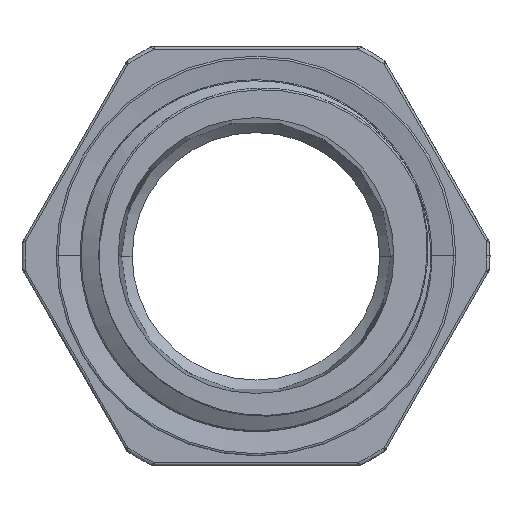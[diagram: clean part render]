
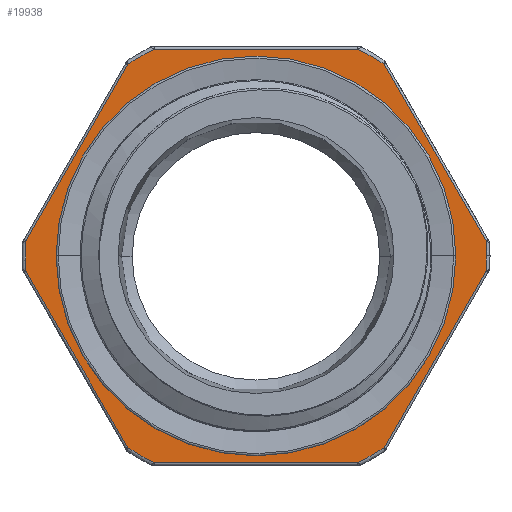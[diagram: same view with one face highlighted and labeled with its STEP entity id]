
A CAD part, top view. The second image highlights one B-rep face of the part: STEP entity #19938.
In plain terms, the highlighted planar face has unit normal (0, 0, 1).
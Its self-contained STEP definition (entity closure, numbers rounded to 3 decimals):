
#47 = CARTESIAN_POINT ( 'NONE',  ( 0., 0., 2.974 ) ) ;
#90 = EDGE_CURVE ( 'NONE', #15262, #11327, #21516, .T. ) ;
#416 = AXIS2_PLACEMENT_3D ( 'NONE', #47, #4481, #24267 ) ;
#557 = AXIS2_PLACEMENT_3D ( 'NONE', #11249, #18083, #22384 ) ;
#696 = ORIENTED_EDGE ( 'NONE', *, *, #16861, .T. ) ;
#1387 = ORIENTED_EDGE ( 'NONE', *, *, #20879, .T. ) ;
#1434 = AXIS2_PLACEMENT_3D ( 'NONE', #26914, #16335, #14083 ) ;
#1532 = ORIENTED_EDGE ( 'NONE', *, *, #6446, .T. ) ;
#1829 = CARTESIAN_POINT ( 'NONE',  ( -13.17, -0.887, 2.974 ) ) ;
#2305 = AXIS2_PLACEMENT_3D ( 'NONE', #7993, #5858, #16514 ) ;
#2536 = EDGE_CURVE ( 'NONE', #11327, #16603, #14813, .T. ) ;
#3759 = CARTESIAN_POINT ( 'NONE',  ( 0., 0., 2.974 ) ) ;
#3799 = VECTOR ( 'NONE', #22326, 1000. ) ;
#4267 = CARTESIAN_POINT ( 'NONE',  ( -6.803, -11.915, 2.974 ) ) ;
#4401 = VERTEX_POINT ( 'NONE', #13887 ) ;
#4406 = CARTESIAN_POINT ( 'NONE',  ( -5.826, 11.845, 2.974 ) ) ;
#4481 = DIRECTION ( 'NONE',  ( 0., 0., 1. ) ) ;
#4662 = CARTESIAN_POINT ( 'NONE',  ( -0.002, -0.002, 2.974 ) ) ;
#4933 = DIRECTION ( 'NONE',  ( 1., 0., 0. ) ) ;
#4973 = CARTESIAN_POINT ( 'NONE',  ( -13.17, 0.883, 2.974 ) ) ;
#5183 = DIRECTION ( 'NONE',  ( 1., 0., 0. ) ) ;
#5434 = DIRECTION ( 'NONE',  ( 0., 0., 1. ) ) ;
#5501 = AXIS2_PLACEMENT_3D ( 'NONE', #3759, #21146, #16405 ) ;
#5548 = ORIENTED_EDGE ( 'NONE', *, *, #90, .T. ) ;
#5723 = CARTESIAN_POINT ( 'NONE',  ( 7.342, 10.969, 2.974 ) ) ;
#5858 = DIRECTION ( 'NONE',  ( 0., 0., 1. ) ) ;
#5986 = CIRCLE ( 'NONE', #5501, 13.2 ) ;
#6229 = CARTESIAN_POINT ( 'NONE',  ( 6.915, -11.848, 2.974 ) ) ;
#6267 = DIRECTION ( 'NONE',  ( 0.5, -0.866, 0. ) ) ;
#6446 = EDGE_CURVE ( 'NONE', #20506, #13637, #11793, .T. ) ;
#6656 = PLANE ( 'NONE',  #17610 ) ;
#7065 = DIRECTION ( 'NONE',  ( 0., 0., 1. ) ) ;
#7277 = CARTESIAN_POINT ( 'NONE',  ( -7.35, 10.964, 2.974 ) ) ;
#7550 = CARTESIAN_POINT ( 'NONE',  ( 7.345, -10.967, 2.974 ) ) ;
#7993 = CARTESIAN_POINT ( 'NONE',  ( 0., 0., 2.974 ) ) ;
#8368 = ORIENTED_EDGE ( 'NONE', *, *, #8469, .T. ) ;
#8469 = EDGE_CURVE ( 'NONE', #16603, #10757, #17250, .T. ) ;
#8627 = CIRCLE ( 'NONE', #416, 13.2 ) ;
#8732 = EDGE_CURVE ( 'NONE', #20910, #18375, #8627, .T. ) ;
#8779 = DIRECTION ( 'NONE',  ( 1., 0., 0. ) ) ;
#8838 = VECTOR ( 'NONE', #6267, 1000. ) ;
#8905 = DIRECTION ( 'NONE',  ( -0.5, -0.866, 0. ) ) ;
#8952 = ORIENTED_EDGE ( 'NONE', *, *, #17942, .F. ) ;
#9282 = ORIENTED_EDGE ( 'NONE', *, *, #13259, .T. ) ;
#10620 = CARTESIAN_POINT ( 'NONE',  ( 0., 0., 2.974 ) ) ;
#10757 = VERTEX_POINT ( 'NONE', #7277 ) ;
#10903 = LINE ( 'NONE', #11040, #12937 ) ;
#10923 = VERTEX_POINT ( 'NONE', #12045 ) ;
#11040 = CARTESIAN_POINT ( 'NONE',  ( -13.72, -0.069, 2.974 ) ) ;
#11249 = CARTESIAN_POINT ( 'NONE',  ( 0., 0., 2.974 ) ) ;
#11327 = VERTEX_POINT ( 'NONE', #20573 ) ;
#11694 = DIRECTION ( 'NONE',  ( 1., 0., 0. ) ) ;
#11793 = CIRCLE ( 'NONE', #25910, 13.2 ) ;
#11977 = VERTEX_POINT ( 'NONE', #7550 ) ;
#12045 = CARTESIAN_POINT ( 'NONE',  ( 11.444, -0.002, 2.974 ) ) ;
#12599 = EDGE_CURVE ( 'NONE', #10757, #20910, #10903, .T. ) ;
#12937 = VECTOR ( 'NONE', #8905, 1000. ) ;
#12978 = CARTESIAN_POINT ( 'NONE',  ( 0., 0., 2.974 ) ) ;
#13124 = DIRECTION ( 'NONE',  ( -1., 0., 0. ) ) ;
#13259 = EDGE_CURVE ( 'NONE', #18375, #20506, #23780, .T. ) ;
#13449 = CARTESIAN_POINT ( 'NONE',  ( -0.002, -0.002, 2.974 ) ) ;
#13637 = VERTEX_POINT ( 'NONE', #18754 ) ;
#13887 = CARTESIAN_POINT ( 'NONE',  ( 13.171, 0.874, 2.974 ) ) ;
#14083 = DIRECTION ( 'NONE',  ( 1., 0., 0. ) ) ;
#14813 = LINE ( 'NONE', #21808, #15178 ) ;
#15178 = VECTOR ( 'NONE', #13124, 1000. ) ;
#15185 = DIRECTION ( 'NONE',  ( -0.5, 0.866, 0. ) ) ;
#15262 = VERTEX_POINT ( 'NONE', #5723 ) ;
#15293 = ORIENTED_EDGE ( 'NONE', *, *, #2536, .T. ) ;
#15432 = ORIENTED_EDGE ( 'NONE', *, *, #23530, .F. ) ;
#15475 = ORIENTED_EDGE ( 'NONE', *, *, #22438, .T. ) ;
#16320 = VERTEX_POINT ( 'NONE', #25080 ) ;
#16335 = DIRECTION ( 'NONE',  ( 0., 0., 1. ) ) ;
#16405 = DIRECTION ( 'NONE',  ( 1., 0., 0. ) ) ;
#16514 = DIRECTION ( 'NONE',  ( 1., 0., 0. ) ) ;
#16603 = VERTEX_POINT ( 'NONE', #4406 ) ;
#16861 = EDGE_CURVE ( 'NONE', #13637, #16320, #27890, .T. ) ;
#17102 = VERTEX_POINT ( 'NONE', #23161 ) ;
#17250 = CIRCLE ( 'NONE', #28182, 13.2 ) ;
#17461 = FACE_OUTER_BOUND ( 'NONE', #27827, .T. ) ;
#17610 = AXIS2_PLACEMENT_3D ( 'NONE', #4662, #7065, #4933 ) ;
#17942 = EDGE_CURVE ( 'NONE', #10923, #22635, #28127, .T. ) ;
#18083 = DIRECTION ( 'NONE',  ( 0., 0., 1. ) ) ;
#18173 = CARTESIAN_POINT ( 'NONE',  ( 13.716, 0.066, 2.974 ) ) ;
#18375 = VERTEX_POINT ( 'NONE', #1829 ) ;
#18507 = VERTEX_POINT ( 'NONE', #21497 ) ;
#18754 = CARTESIAN_POINT ( 'NONE',  ( -5.82, -11.848, 2.974 ) ) ;
#19115 = CIRCLE ( 'NONE', #2305, 13.2 ) ;
#19260 = VECTOR ( 'NONE', #15185, 1000. ) ;
#19350 = LINE ( 'NONE', #23900, #19260 ) ;
#19384 = DIRECTION ( 'NONE',  ( 0., 0., 1. ) ) ;
#19848 = ORIENTED_EDGE ( 'NONE', *, *, #20756, .T. ) ;
#19899 = FACE_BOUND ( 'NONE', #22876, .T. ) ;
#19938 = ADVANCED_FACE ( 'NONE', ( #19899, #17461 ), #6656, .T. ) ;
#19971 = CARTESIAN_POINT ( 'NONE',  ( -7.353, -10.962, 2.974 ) ) ;
#20367 = ORIENTED_EDGE ( 'NONE', *, *, #25774, .T. ) ;
#20506 = VERTEX_POINT ( 'NONE', #19971 ) ;
#20573 = CARTESIAN_POINT ( 'NONE',  ( 5.826, 11.845, 2.974 ) ) ;
#20630 = ORIENTED_EDGE ( 'NONE', *, *, #12599, .T. ) ;
#20756 = EDGE_CURVE ( 'NONE', #18507, #17102, #19115, .T. ) ;
#20840 = AXIS2_PLACEMENT_3D ( 'NONE', #13449, #22437, #5183 ) ;
#20879 = EDGE_CURVE ( 'NONE', #17102, #4401, #21410, .T. ) ;
#20910 = VERTEX_POINT ( 'NONE', #4973 ) ;
#21146 = DIRECTION ( 'NONE',  ( 0., 0., 1. ) ) ;
#21255 = VECTOR ( 'NONE', #8779, 1000. ) ;
#21410 = CIRCLE ( 'NONE', #25515, 13.2 ) ;
#21497 = CARTESIAN_POINT ( 'NONE',  ( 13.171, -0.878, 2.974 ) ) ;
#21516 = CIRCLE ( 'NONE', #557, 13.2 ) ;
#21662 = DIRECTION ( 'NONE',  ( 1., 0., 0. ) ) ;
#21808 = CARTESIAN_POINT ( 'NONE',  ( -6.92, 11.845, 2.974 ) ) ;
#22326 = DIRECTION ( 'NONE',  ( 0.5, 0.866, 0. ) ) ;
#22384 = DIRECTION ( 'NONE',  ( 1., 0., 0. ) ) ;
#22437 = DIRECTION ( 'NONE',  ( 0., 0., 1. ) ) ;
#22438 = EDGE_CURVE ( 'NONE', #16320, #11977, #5986, .T. ) ;
#22635 = VERTEX_POINT ( 'NONE', #23068 ) ;
#22876 = EDGE_LOOP ( 'NONE', ( #15432, #8952 ) ) ;
#23068 = CARTESIAN_POINT ( 'NONE',  ( -11.449, -0.002, 2.974 ) ) ;
#23161 = CARTESIAN_POINT ( 'NONE',  ( 13.2, 0., 2.974 ) ) ;
#23530 = EDGE_CURVE ( 'NONE', #22635, #10923, #26016, .T. ) ;
#23593 = DIRECTION ( 'NONE',  ( 0., 0., 1. ) ) ;
#23780 = LINE ( 'NONE', #4267, #8838 ) ;
#23900 = CARTESIAN_POINT ( 'NONE',  ( 6.798, 11.912, 2.974 ) ) ;
#24267 = DIRECTION ( 'NONE',  ( 1., 0., 0. ) ) ;
#24388 = CARTESIAN_POINT ( 'NONE',  ( 0., 0., 2.974 ) ) ;
#24455 = LINE ( 'NONE', #18173, #3799 ) ;
#24723 = ORIENTED_EDGE ( 'NONE', *, *, #8732, .T. ) ;
#24940 = ORIENTED_EDGE ( 'NONE', *, *, #25944, .T. ) ;
#25080 = CARTESIAN_POINT ( 'NONE',  ( 5.82, -11.848, 2.974 ) ) ;
#25515 = AXIS2_PLACEMENT_3D ( 'NONE', #12978, #19384, #21662 ) ;
#25774 = EDGE_CURVE ( 'NONE', #4401, #15262, #19350, .T. ) ;
#25910 = AXIS2_PLACEMENT_3D ( 'NONE', #24388, #5434, #11694 ) ;
#25944 = EDGE_CURVE ( 'NONE', #11977, #18507, #24455, .T. ) ;
#26016 = CIRCLE ( 'NONE', #1434, 11.447 ) ;
#26292 = DIRECTION ( 'NONE',  ( 1., 0., 0. ) ) ;
#26914 = CARTESIAN_POINT ( 'NONE',  ( -0.002, -0.002, 2.974 ) ) ;
#27827 = EDGE_LOOP ( 'NONE', ( #15293, #8368, #20630, #24723, #9282, #1532, #696, #15475, #24940, #19848, #1387, #20367, #5548 ) ) ;
#27890 = LINE ( 'NONE', #6229, #21255 ) ;
#28127 = CIRCLE ( 'NONE', #20840, 11.447 ) ;
#28182 = AXIS2_PLACEMENT_3D ( 'NONE', #10620, #23593, #26292 ) ;
